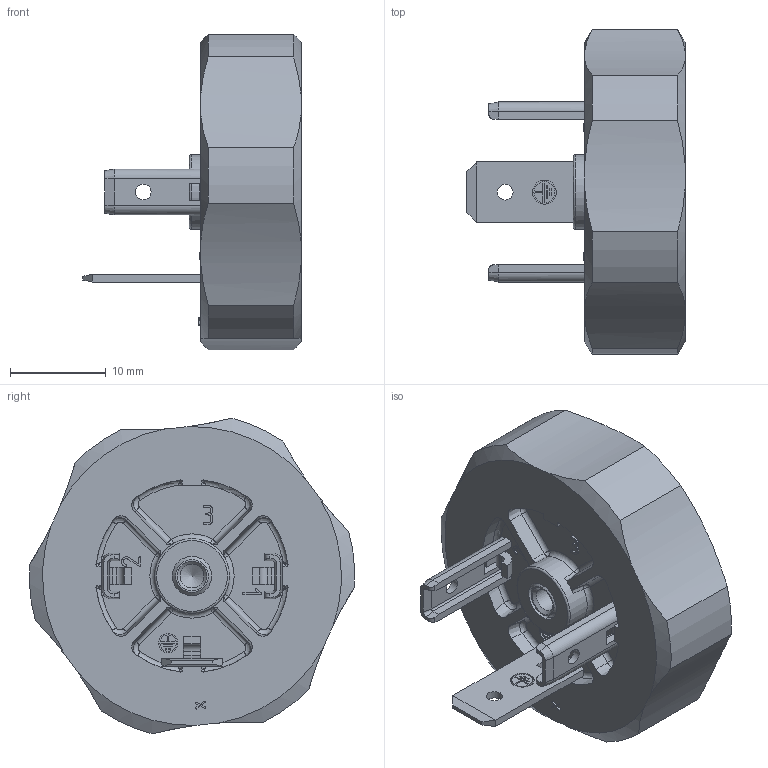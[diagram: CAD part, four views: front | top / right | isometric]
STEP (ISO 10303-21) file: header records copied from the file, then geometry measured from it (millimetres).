
FILE_DESCRIPTION(/* description */ (''),/* implementation_level */ '2;1');
FILE_NAME(/* name */ '43-1705-005-03-001_00.stp',/* time_stamp */ '2018-01-04T11:46:13+01:00',/* author */ (''),/* organization */ (''),/* preprocessor_version */ 'ST-DEVELOPER v16',/* originating_system */ 'SIEMENS PLM Software NX 11.0',/* authorisation */ '');
FILE_SCHEMA (('AUTOMOTIVE_DESIGN { 1 0 10303 214 3 1 1 1 }'));
Length unit declared in the file: millimetre
Products named in the file (1): jbyc0F98F23A0tdd
Bounding box: 22.8 x 33.96 x 32.96 mm (x, y, z)
Volume: 5382.4 mm3; surface area: 5070.9 mm2
Topology: 1 solids, 1 shells, 610 faces, 1628 edges, 1025 vertices
Faces by surface type: plane 317, cylinder 142, bspline 42, extrusion 37, torus 30, cone 26, sphere 16
Full cylindrical faces by diameter (mm): 1.65 x3, 1.7 x1, 2 x1, 2.2 x1, 2.5 x2, 4.1 x1, 7.8 x1, 21.8 x1, 24.4 x1, 25.5 x1
Entity records: 20580 total; most frequent: CARTESIAN_POINT 5849, ORIENTED_EDGE 3150, DIRECTION 2904, EDGE_CURVE 1575, VERTEX_POINT 1014, AXIS2_PLACEMENT_3D 996, VECTOR 912, LINE 875
